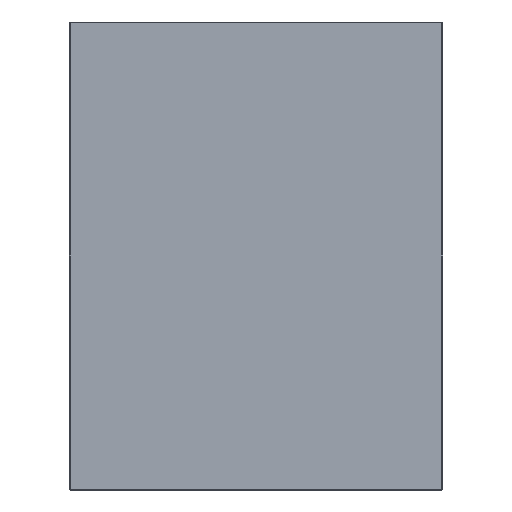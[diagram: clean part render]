
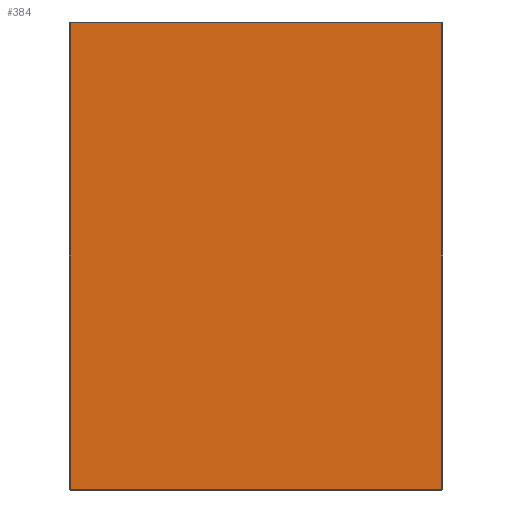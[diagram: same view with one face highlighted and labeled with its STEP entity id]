
A CAD part, front view. The second image highlights one B-rep face of the part: STEP entity #384.
In plain terms, the highlighted planar face has unit normal (0, -1, 0).
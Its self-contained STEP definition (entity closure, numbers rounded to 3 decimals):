
#4 = LINE ( 'NONE', #410, #11 ) ;
#11 = VECTOR ( 'NONE', #496, 1000. ) ;
#30 = PLANE ( 'NONE',  #393 ) ;
#42 = DIRECTION ( 'NONE',  ( -1., 0., 0. ) ) ;
#47 = CARTESIAN_POINT ( 'NONE',  ( 0., 0., 247. ) ) ;
#50 = VERTEX_POINT ( 'NONE', #146 ) ;
#76 = FACE_OUTER_BOUND ( 'NONE', #425, .T. ) ;
#104 = CARTESIAN_POINT ( 'NONE',  ( 0., 0., 0. ) ) ;
#121 = EDGE_CURVE ( 'NONE', #145, #408, #195, .T. ) ;
#124 = LINE ( 'NONE', #473, #269 ) ;
#145 = VERTEX_POINT ( 'NONE', #459 ) ;
#146 = CARTESIAN_POINT ( 'NONE',  ( 197., 0., 247. ) ) ;
#155 = LINE ( 'NONE', #47, #454 ) ;
#195 = LINE ( 'NONE', #404, #422 ) ;
#203 = VERTEX_POINT ( 'NONE', #580 ) ;
#236 = DIRECTION ( 'NONE',  ( 1., 0., 0. ) ) ;
#269 = VECTOR ( 'NONE', #236, 1000. ) ;
#294 = EDGE_CURVE ( 'NONE', #50, #145, #155, .T. ) ;
#331 = DIRECTION ( 'NONE',  ( 0., 0., 1. ) ) ;
#383 = DIRECTION ( 'NONE',  ( 0., 0., -1. ) ) ;
#384 = ADVANCED_FACE ( 'NONE', ( #76 ), #30, .F. ) ;
#387 = ORIENTED_EDGE ( 'NONE', *, *, #640, .T. ) ;
#393 = AXIS2_PLACEMENT_3D ( 'NONE', #104, #489, #331 ) ;
#395 = CARTESIAN_POINT ( 'NONE',  ( -197., 0., -247. ) ) ;
#404 = CARTESIAN_POINT ( 'NONE',  ( -197., 0., 0. ) ) ;
#408 = VERTEX_POINT ( 'NONE', #395 ) ;
#410 = CARTESIAN_POINT ( 'NONE',  ( 197., 0., 0. ) ) ;
#422 = VECTOR ( 'NONE', #383, 1000. ) ;
#425 = EDGE_LOOP ( 'NONE', ( #638, #627, #636, #387 ) ) ;
#454 = VECTOR ( 'NONE', #42, 1000. ) ;
#459 = CARTESIAN_POINT ( 'NONE',  ( -197., 0., 247. ) ) ;
#473 = CARTESIAN_POINT ( 'NONE',  ( 0., 0., -247. ) ) ;
#489 = DIRECTION ( 'NONE',  ( 0., 1., 0. ) ) ;
#496 = DIRECTION ( 'NONE',  ( 0., 0., 1. ) ) ;
#521 = EDGE_CURVE ( 'NONE', #203, #50, #4, .T. ) ;
#580 = CARTESIAN_POINT ( 'NONE',  ( 197., 0., -247. ) ) ;
#627 = ORIENTED_EDGE ( 'NONE', *, *, #294, .T. ) ;
#636 = ORIENTED_EDGE ( 'NONE', *, *, #121, .T. ) ;
#638 = ORIENTED_EDGE ( 'NONE', *, *, #521, .T. ) ;
#640 = EDGE_CURVE ( 'NONE', #408, #203, #124, .T. ) ;
